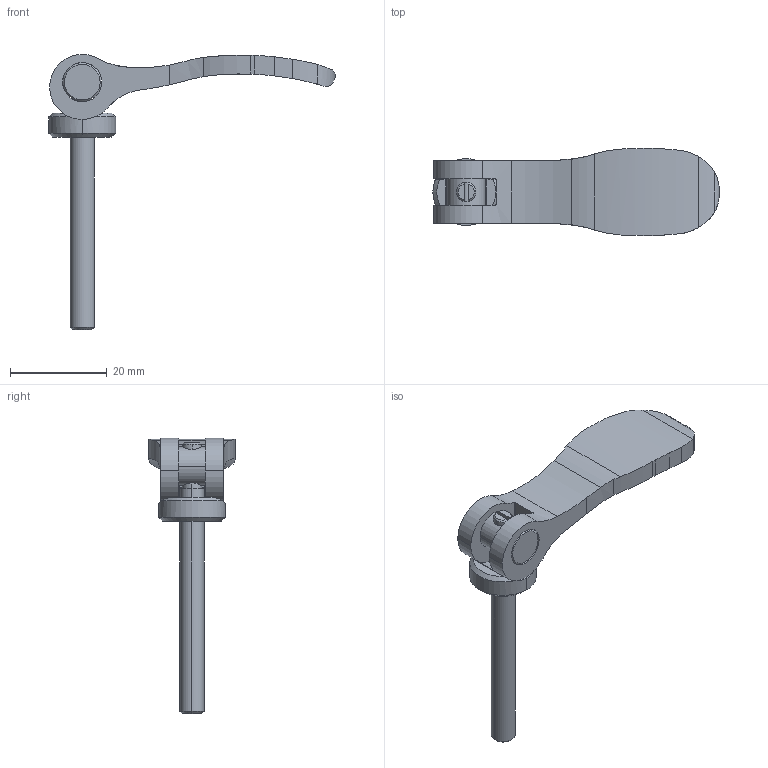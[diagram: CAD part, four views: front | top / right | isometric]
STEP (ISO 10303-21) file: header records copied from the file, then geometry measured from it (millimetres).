
FILE_DESCRIPTION (( 'STEP AP203' ), '1' );
FILE_NAME ('KCLFS05AX40.step', '2024-11-05T06:37:27', ( '' ), ( '' ), 'SwSTEP 2.0', 'SolidWorks 2023', '' );
FILE_SCHEMA (( 'CONFIG_CONTROL_DESIGN' ));
Length unit declared in the file: millimetre
Products named in the file (4): KCLFS05AX40_01; KCLFS05AX40; KCLFS05AX40_02; KCLFS05AX40_03
Assembly tree (3 placements, depth 2):
  KCLFS05AX40
    KCLFS05AX40_01
    KCLFS05AX40_02
    KCLFS05AX40_03
Bounding box: 59.2 x 18 x 56.95 mm (x, y, z)
Volume: 5681.9 mm3; surface area: 4381.2 mm2
Topology: 3 solids, 3 shells, 92 faces, 236 edges, 153 vertices
Faces by surface type: cylinder 58, plane 19, cone 15
Entity records: 3571 total; most frequent: CARTESIAN_POINT 984, ORIENTED_EDGE 472, DIRECTION 439, EDGE_CURVE 236, AXIS2_PLACEMENT_3D 178, VERTEX_POINT 153, EDGE_LOOP 101, ADVANCED_FACE 92
